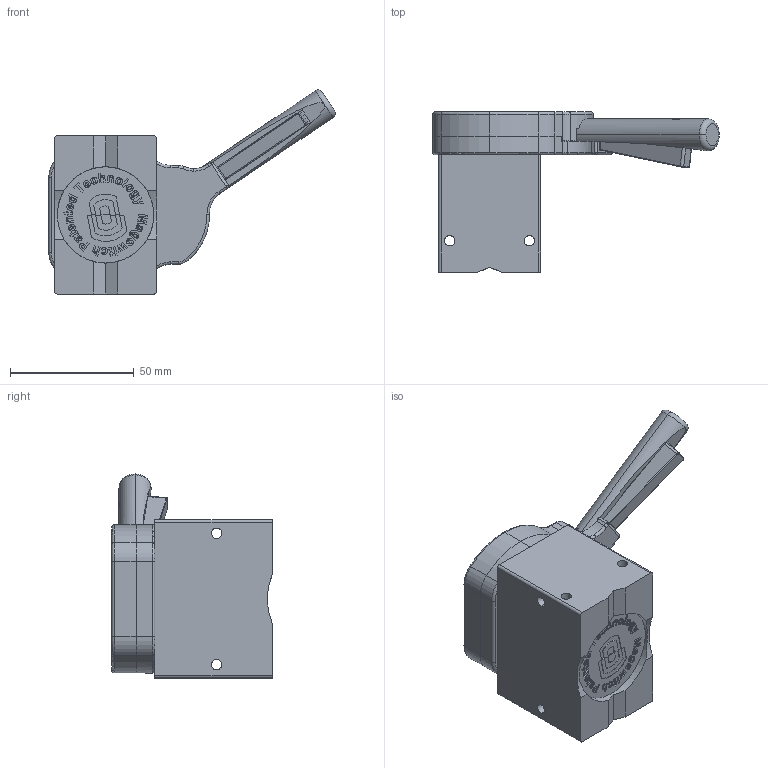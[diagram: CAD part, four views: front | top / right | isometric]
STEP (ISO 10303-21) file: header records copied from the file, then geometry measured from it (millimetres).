
FILE_DESCRIPTION (( 'STEP AP214' ), '1' );
FILE_NAME ('8000523_p.STEP', '2018-11-01T17:11:06', ( '' ), ( '' ), 'SwSTEP 2.0', 'SolidWorks 2018', '' );
FILE_SCHEMA (( 'AUTOMOTIVE_DESIGN' ));
Length unit declared in the file: millimetre
Products named in the file (1): 8000523_p
Bounding box: 115.92 x 64.9 x 82.55 mm (x, y, z)
Surface area: 35516.8 mm2 (no closed solid volume)
Topology: 0 solids, 12 shells, 731 faces, 2458 edges, 1706 vertices
Faces by surface type: plane 348, bspline 211, cylinder 106, cone 36, torus 27, sphere 3
Entity records: 60160 total; most frequent: CARTESIAN_POINT 32569, ORIENTED_EDGE 4181, DIRECTION 3286, EDGE_CURVE 2456, VERTEX_POINT 1705, VECTOR 1378, LINE 1378, AXIS2_PLACEMENT_3D 954
